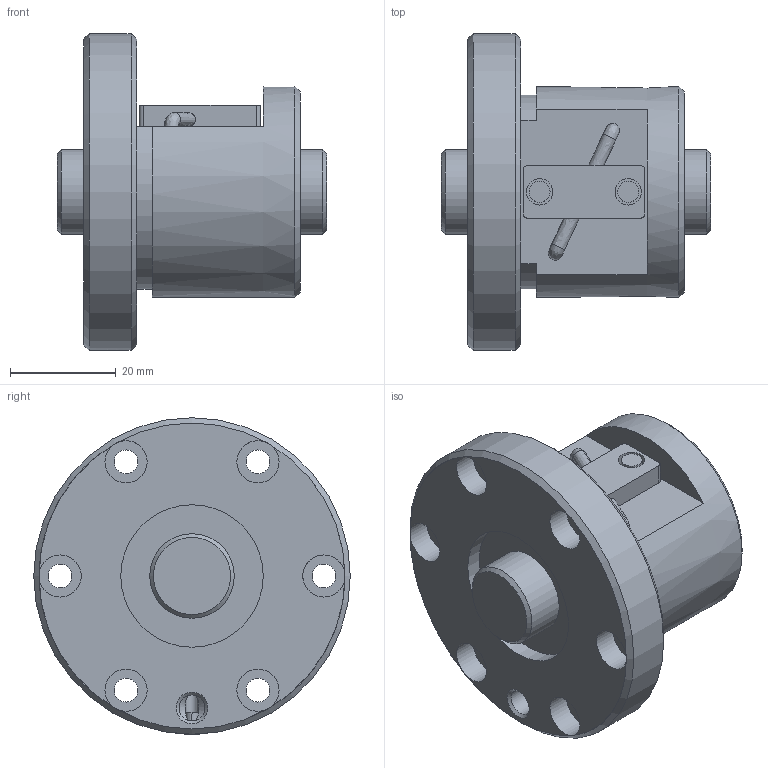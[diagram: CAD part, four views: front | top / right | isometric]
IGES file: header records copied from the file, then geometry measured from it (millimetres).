
Start section: Data from Parasolid IGES Translator 26.0.171, Copyright(c) 2006 Siemens PLM Software. All Rights Reserved.
Global section: file name: BNF1605V-2.5RRG1+51LC0_000_rev.igs; native system: By Siemens PLM Incorporated; preprocessor: XPlus GENERIC/IGES 26.0.171; author: Noname; organization: Noname; date: 20240806.072721; units: millimetre
Bounding box: 51 x 60 x 60 mm (x, y, z)
Surface area: 18051.5 mm2 (no closed solid volume)
Topology: 0 solids, 0 shells, 72 faces, 360 edges, 317 vertices
Faces by surface type: revolution 45, extrusion 27
